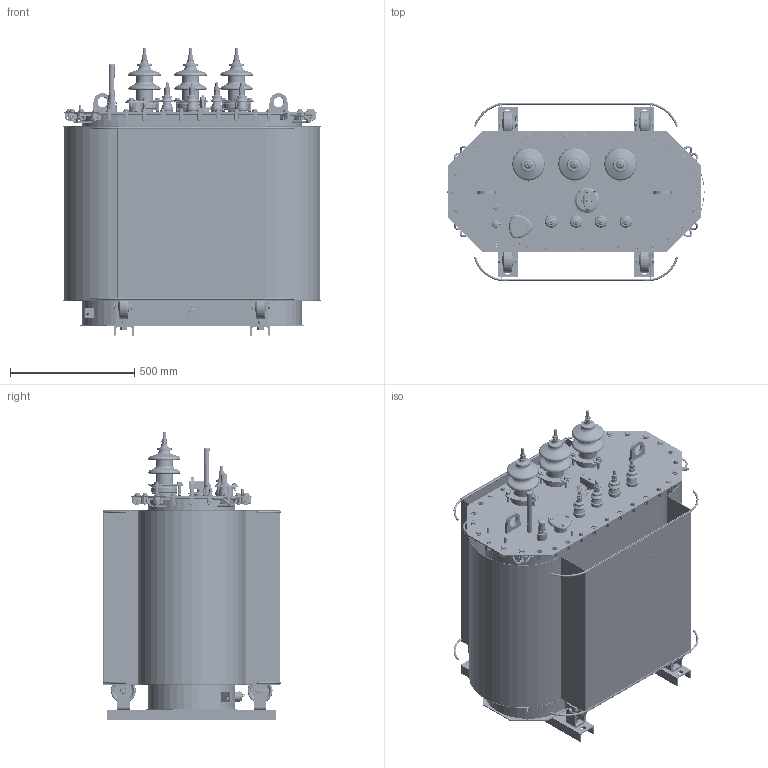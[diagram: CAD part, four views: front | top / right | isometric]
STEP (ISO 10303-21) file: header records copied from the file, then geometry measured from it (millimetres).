
FILE_DESCRIPTION(/* description */ (''),/* implementation_level */ '2;1');
FILE_NAME(/* name */ 'D:\SEARCHWORK\Готовые\Готовые ТМГ\ТМГ11\ТМГ11-160-10-УХЛ1\ТМГ11-160-10-УХЛ1-10-0,4.stp',/* time_stamp */ '2024-07-12T10:45:56+03:00',/* author */ ('55505'),/* organization */ (''),/* preprocessor_version */ 'ST-DEVELOPER v18.1',/* originating_system */ 'Autodesk Inventor 2021',/* authorisation */ '');
FILE_SCHEMA (('AUTOMOTIVE_DESIGN { 1 0 10303 214 3 1 1 }'));
Products named in the file (1): ВИЕЛ.672233.054-050
Bounding box: 1034 x 718.56 x 1160.23 mm (x, y, z)
Volume: 15018994 mm3; surface area: 9825549.9 mm2
Topology: 54 solids, 111 shells, 14604 faces, 36871 edges, 22288 vertices
Faces by surface type: plane 7052, cylinder 3866, bspline 2080, torus 833, cone 447, sphere 326
Full cylindrical faces by diameter (mm): 0.5 x1, 1.5 x2, 1.6 x3, 2 x12, 2.5 x6, 3 x20, 3.1 x4, 3.8 x4, 3.96 x15, 4 x44, 4.134 x1, 4.2 x3, 4.42 x3, 4.5 x18, 4.8 x15, 4.917 x3, 4.95 x1, 5 x13, 5.94 x10, 6 x36, 6.1 x6, 6.2 x5, 6.5 x7, 7 x1, 7.1 x2, 7.5 x1, 7.92 x3, 8 x20, 8.5 x3, 8.746 x13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
Entity records: 521309 total; most frequent: CARTESIAN_POINT 168668, ORIENTED_EDGE 72878, DIRECTION 66346, EDGE_CURVE 36455, AXIS2_PLACEMENT_3D 23372, VERTEX_POINT 22309, LINE 19602, VECTOR 19602
